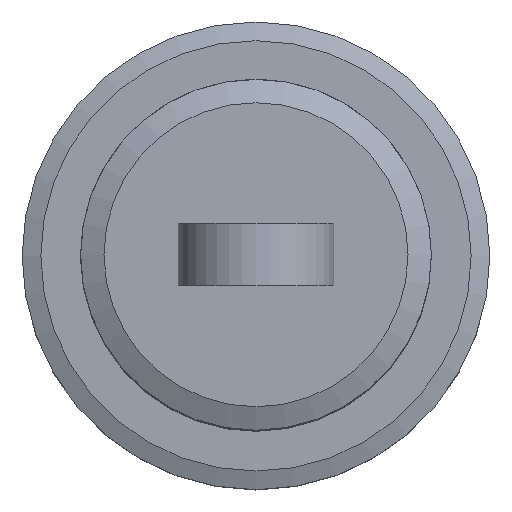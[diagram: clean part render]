
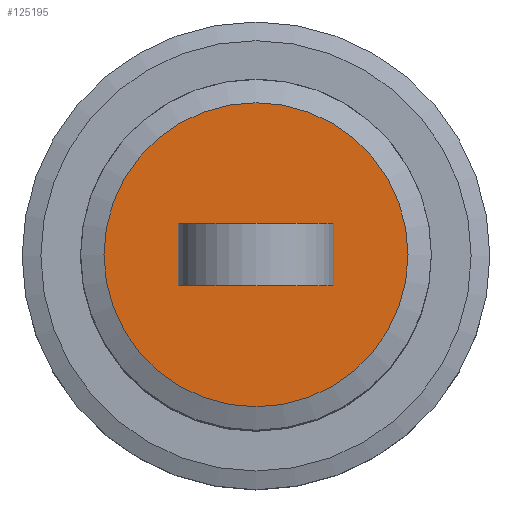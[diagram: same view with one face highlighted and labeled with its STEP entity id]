
A CAD part, top view. The second image highlights one B-rep face of the part: STEP entity #125195.
In plain terms, the highlighted planar face has unit normal (0, 0, 1).
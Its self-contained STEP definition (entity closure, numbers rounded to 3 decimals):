
#125175 = VERTEX_POINT('',#125176);
#125176 = CARTESIAN_POINT('',(9.75,0.,50.));
#125182 = EDGE_CURVE('',#125175,#125175,#125183,.T.);
#125183 = CIRCLE('',#125184,9.75);
#125184 = AXIS2_PLACEMENT_3D('',#125185,#125186,#125187);
#125185 = CARTESIAN_POINT('',(0.,0.,50.));
#125186 = DIRECTION('',(0.,0.,1.));
#125187 = DIRECTION('',(1.,0.,0.));
#125195 = ADVANCED_FACE('',(#125196,#125199),#125233,.T.);
#125196 = FACE_BOUND('',#125197,.T.);
#125197 = EDGE_LOOP('',(#125198));
#125198 = ORIENTED_EDGE('',*,*,#125182,.T.);
#125199 = FACE_BOUND('',#125200,.T.);
#125200 = EDGE_LOOP('',(#125201,#125211,#125219,#125227));
#125201 = ORIENTED_EDGE('',*,*,#125202,.T.);
#125202 = EDGE_CURVE('',#125203,#125205,#125207,.T.);
#125203 = VERTEX_POINT('',#125204);
#125204 = CARTESIAN_POINT('',(5.,-2.,50.));
#125205 = VERTEX_POINT('',#125206);
#125206 = CARTESIAN_POINT('',(-5.,-2.,50.));
#125207 = LINE('',#125208,#125209);
#125208 = CARTESIAN_POINT('',(-2.5,-2.,50.));
#125209 = VECTOR('',#125210,1.);
#125210 = DIRECTION('',(-1.,0.,0.));
#125211 = ORIENTED_EDGE('',*,*,#125212,.T.);
#125212 = EDGE_CURVE('',#125205,#125213,#125215,.T.);
#125213 = VERTEX_POINT('',#125214);
#125214 = CARTESIAN_POINT('',(-5.,2.,50.));
#125215 = LINE('',#125216,#125217);
#125216 = CARTESIAN_POINT('',(-5.,-1.,50.));
#125217 = VECTOR('',#125218,1.);
#125218 = DIRECTION('',(0.,1.,0.));
#125219 = ORIENTED_EDGE('',*,*,#125220,.F.);
#125220 = EDGE_CURVE('',#125221,#125213,#125223,.T.);
#125221 = VERTEX_POINT('',#125222);
#125222 = CARTESIAN_POINT('',(5.,2.,50.));
#125223 = LINE('',#125224,#125225);
#125224 = CARTESIAN_POINT('',(-2.5,2.,50.));
#125225 = VECTOR('',#125226,1.);
#125226 = DIRECTION('',(-1.,0.,0.));
#125227 = ORIENTED_EDGE('',*,*,#125228,.F.);
#125228 = EDGE_CURVE('',#125203,#125221,#125229,.T.);
#125229 = LINE('',#125230,#125231);
#125230 = CARTESIAN_POINT('',(5.,-1.,50.));
#125231 = VECTOR('',#125232,1.);
#125232 = DIRECTION('',(0.,1.,0.));
#125233 = PLANE('',#125234);
#125234 = AXIS2_PLACEMENT_3D('',#125235,#125236,#125237);
#125235 = CARTESIAN_POINT('',(0.,0.,50.));
#125236 = DIRECTION('',(0.,0.,1.));
#125237 = DIRECTION('',(1.,0.,0.));
